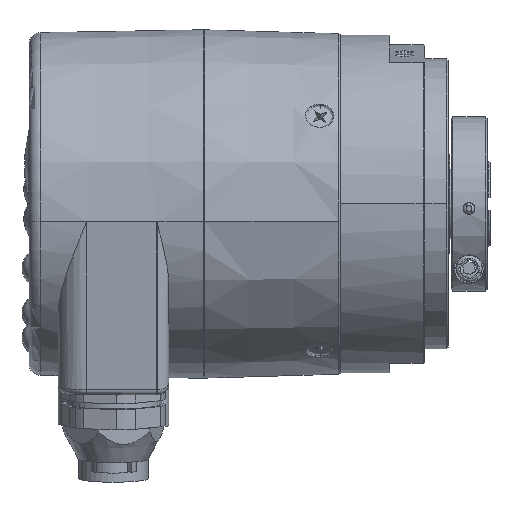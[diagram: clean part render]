
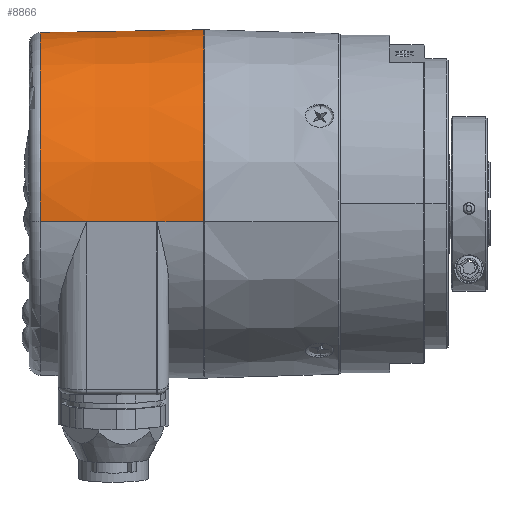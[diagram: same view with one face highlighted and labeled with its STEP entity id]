
A CAD part, top view. The second image highlights one B-rep face of the part: STEP entity #8866.
In plain terms, the highlighted conical face has half-angle 1 degrees and reference radius 30 mm.
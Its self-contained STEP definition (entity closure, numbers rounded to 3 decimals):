
#8866 = ADVANCED_FACE ( 'NONE', ( #20289 ), #20273, .T. ) ;
#8867 = EDGE_LOOP ( 'NONE', ( #8868, #8872, #8875, #8878, #8913, #8916, #8919, #8980 ) ) ;
#8868 = ORIENTED_EDGE ( 'NONE', *, *, #8869, .T. ) ;
#8869 = EDGE_CURVE ( 'NONE', #8870, #8871, #20338, .T. ) ;
#8870 = VERTEX_POINT ( 'NONE', #20329 ) ;
#8871 = VERTEX_POINT ( 'NONE', #20328 ) ;
#8872 = ORIENTED_EDGE ( 'NONE', *, *, #8873, .T. ) ;
#8873 = EDGE_CURVE ( 'NONE', #8871, #8874, #20327, .T. ) ;
#8874 = VERTEX_POINT ( 'NONE', #20323 ) ;
#8875 = ORIENTED_EDGE ( 'NONE', *, *, #8876, .T. ) ;
#8876 = EDGE_CURVE ( 'NONE', #8874, #8877, #20322, .T. ) ;
#8877 = VERTEX_POINT ( 'NONE', #20318 ) ;
#8878 = ORIENTED_EDGE ( 'NONE', *, *, #8879, .T. ) ;
#8879 = EDGE_CURVE ( 'NONE', #8877, #8912, #20316, .T. ) ;
#8912 = VERTEX_POINT ( 'NONE', #20373 ) ;
#8913 = ORIENTED_EDGE ( 'NONE', *, *, #8914, .F. ) ;
#8914 = EDGE_CURVE ( 'NONE', #8915, #8912, #20372, .T. ) ;
#8915 = VERTEX_POINT ( 'NONE', #20367 ) ;
#8916 = ORIENTED_EDGE ( 'NONE', *, *, #8917, .F. ) ;
#8917 = EDGE_CURVE ( 'NONE', #8918, #8915, #20366, .T. ) ;
#8918 = VERTEX_POINT ( 'NONE', #20362 ) ;
#8919 = ORIENTED_EDGE ( 'NONE', *, *, #8920, .F. ) ;
#8920 = EDGE_CURVE ( 'NONE', #8921, #8918, #20361, .T. ) ;
#8921 = VERTEX_POINT ( 'NONE', #20420 ) ;
#8980 = ORIENTED_EDGE ( 'NONE', *, *, #8981, .F. ) ;
#8981 = EDGE_CURVE ( 'NONE', #8870, #8921, #20542, .T. ) ;
#20273 = CONICAL_SURFACE ( 'NONE', #20337, 30., 0.017 ) ;
#20289 = FACE_OUTER_BOUND ( 'NONE', #8867, .T. ) ;
#20313 = DIRECTION ( 'NONE',  ( 1., -0.002, 0.017 ) ) ;
#20314 = VECTOR ( 'NONE', #20313, 1000. ) ;
#20315 = CARTESIAN_POINT ( 'NONE',  ( -16., -3.136, 29.836 ) ) ;
#20316 = LINE ( 'NONE', #20315, #20314 ) ;
#20318 = CARTESIAN_POINT ( 'NONE',  ( -24.035, -3.121, 29.696 ) ) ;
#20319 = DIRECTION ( 'NONE',  ( 1., -0.002, 0.017 ) ) ;
#20320 = VECTOR ( 'NONE', #20319, 1000. ) ;
#20321 = CARTESIAN_POINT ( 'NONE',  ( -16.523, -3.135, 29.827 ) ) ;
#20322 = LINE ( 'NONE', #20321, #20320 ) ;
#20323 = CARTESIAN_POINT ( 'NONE',  ( -36.087, -3.099, 29.487 ) ) ;
#20324 = DIRECTION ( 'NONE',  ( 1., -0.002, 0.017 ) ) ;
#20325 = VECTOR ( 'NONE', #20324, 1000. ) ;
#20326 = CARTESIAN_POINT ( 'NONE',  ( -16., -3.136, 29.836 ) ) ;
#20327 = LINE ( 'NONE', #20326, #20325 ) ;
#20328 = CARTESIAN_POINT ( 'NONE',  ( -44.035, -3.085, 29.349 ) ) ;
#20329 = CARTESIAN_POINT ( 'NONE',  ( -44.035, 3.085, -29.349 ) ) ;
#20330 = DIRECTION ( 'NONE',  ( 0., -0.105, 0.995 ) ) ;
#20331 = DIRECTION ( 'NONE',  ( 1., 0., 0. ) ) ;
#20332 = CARTESIAN_POINT ( 'NONE',  ( -44.035, 0., 0. ) ) ;
#20333 = AXIS2_PLACEMENT_3D ( 'NONE', #20332, #20331, #20330 ) ;
#20334 = DIRECTION ( 'NONE',  ( 0., 0.105, -0.995 ) ) ;
#20335 = DIRECTION ( 'NONE',  ( 1., 0., 0. ) ) ;
#20336 = CARTESIAN_POINT ( 'NONE',  ( -16., 0., 0. ) ) ;
#20337 = AXIS2_PLACEMENT_3D ( 'NONE', #20336, #20335, #20334 ) ;
#20338 = CIRCLE ( 'NONE', #20333, 29.511 ) ;
#20360 = CARTESIAN_POINT ( 'NONE',  ( -16.523, 3.135, -29.827 ) ) ;
#20361 = LINE ( 'NONE', #20360, #20422 ) ;
#20362 = CARTESIAN_POINT ( 'NONE',  ( -24.035, 3.121, -29.696 ) ) ;
#20363 = DIRECTION ( 'NONE',  ( 1., 0.002, -0.017 ) ) ;
#20364 = VECTOR ( 'NONE', #20363, 1000. ) ;
#20365 = CARTESIAN_POINT ( 'NONE',  ( -16., 3.136, -29.836 ) ) ;
#20366 = LINE ( 'NONE', #20365, #20364 ) ;
#20367 = CARTESIAN_POINT ( 'NONE',  ( -16., 3.136, -29.836 ) ) ;
#20368 = DIRECTION ( 'NONE',  ( 0., 0.105, -0.995 ) ) ;
#20369 = DIRECTION ( 'NONE',  ( 1., 0., 0. ) ) ;
#20370 = CARTESIAN_POINT ( 'NONE',  ( -16., 0., 0. ) ) ;
#20371 = AXIS2_PLACEMENT_3D ( 'NONE', #20370, #20369, #20368 ) ;
#20372 = CIRCLE ( 'NONE', #20371, 30. ) ;
#20373 = CARTESIAN_POINT ( 'NONE',  ( -16., -3.136, 29.836 ) ) ;
#20420 = CARTESIAN_POINT ( 'NONE',  ( -36.087, 3.099, -29.487 ) ) ;
#20421 = DIRECTION ( 'NONE',  ( 1., 0.002, -0.017 ) ) ;
#20422 = VECTOR ( 'NONE', #20421, 1000. ) ;
#20539 = DIRECTION ( 'NONE',  ( 1., 0.002, -0.017 ) ) ;
#20540 = VECTOR ( 'NONE', #20539, 1000. ) ;
#20541 = CARTESIAN_POINT ( 'NONE',  ( -16., 3.136, -29.836 ) ) ;
#20542 = LINE ( 'NONE', #20541, #20540 ) ;
